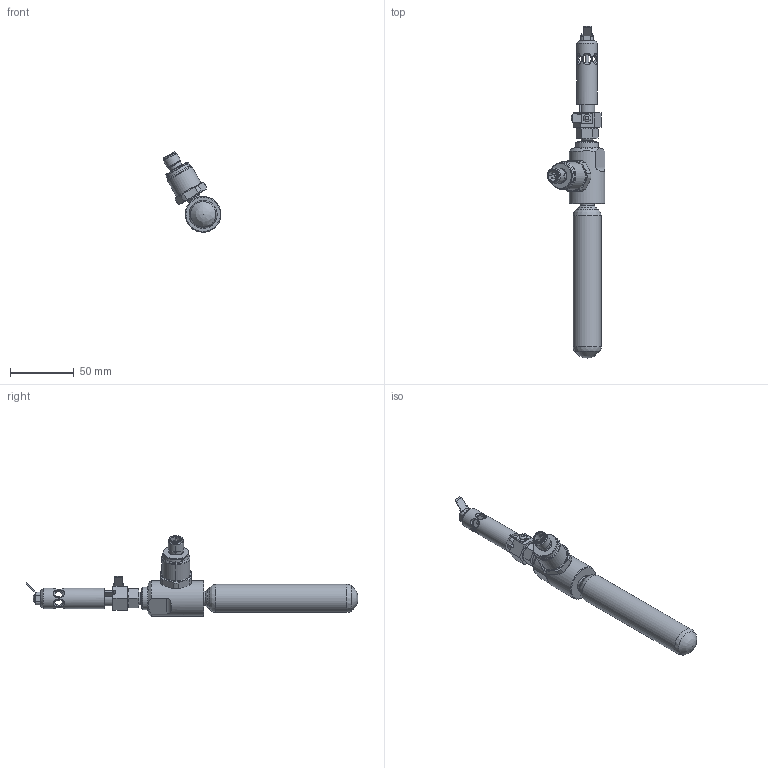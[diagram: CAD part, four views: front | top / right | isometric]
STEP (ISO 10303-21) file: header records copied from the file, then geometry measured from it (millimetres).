
FILE_DESCRIPTION(/* description */ (''),/* implementation_level */ '2;1');
FILE_NAME(/* name */ '40-057-20-32-00 - S-AMFE & R-AMFE - cylinder size 0 and pressure sensor (M12 plug).stp',/* time_stamp */ '2025-03-26T16:20:49+01:00',/* author */ ('ASc'),/* organization */ (''),/* preprocessor_version */ 'ST-DEVELOPER v19.2',/* originating_system */ 'Autodesk Inventor 2023',/* authorisation */ '');
FILE_SCHEMA (('AUTOMOTIVE_DESIGN { 1 0 10303 214 3 1 1 }'));
Length unit declared in the file: millimetre
Products named in the file (1): 40-057-20-32-00_Vereinfachen_1
Bounding box: 45.42 x 260.7 x 63.17 mm (x, y, z)
Volume: 97493.3 mm3; surface area: 23799 mm2
Topology: 1 solids, 1 shells, 374 faces, 974 edges, 612 vertices
Faces by surface type: bspline 168, plane 142, cylinder 31, cone 30, torus 3
Full cylindrical faces by diameter (mm): 2.9 x1, 5.7 x2, 6.5 x6, 9.4 x1, 11 x1, 11.9 x1, 12 x1, 12.5 x1, 15 x1, 16 x1, 17.5 x1, 22.102 x1, 28 x1
Entity records: 19823 total; most frequent: CARTESIAN_POINT 10989, ORIENTED_EDGE 1944, DIRECTION 1392, EDGE_CURVE 972, VERTEX_POINT 612, AXIS2_PLACEMENT_3D 500, EDGE_LOOP 404, LINE 392
